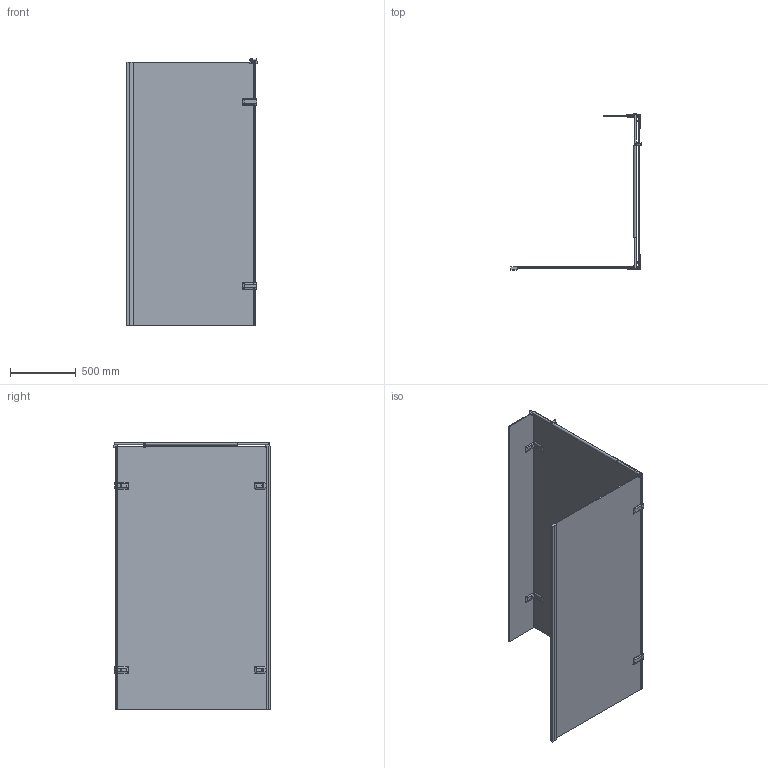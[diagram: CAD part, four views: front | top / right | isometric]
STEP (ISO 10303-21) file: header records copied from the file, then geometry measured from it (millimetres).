
FILE_DESCRIPTION(/* description */ (''),/* implementation_level */ '2;1');
FILE_NAME(/* name */ 'E:\Работа\Сергей\Душевые кабинки\! Работа\!!!!\50\TREND DOOR GK-883NGP\TREND DOOR GK-883NGP правая модель\TREND DOOR GK-883NGP ПРАВАЯ-3D.stp',/* time_stamp */ '2018-11-25T20:24:07+03:00',/* author */ ('PC'),/* organization */ (''),/* preprocessor_version */ 'ST-DEVELOPER v15.2',/* originating_system */ 'Autodesk Inventor 2014',/* authorisation */ '');
FILE_SCHEMA (('CONFIG_CONTROL_DESIGN'));
Length unit declared in the file: millimetre
Products named in the file (1): TREND DOOR GK-883NGP ПРАВАЯ-
3D
Bounding box: 990.14 x 1184.8 x 2028.5 mm (x, y, z)
Volume: 40794631.7 mm3; surface area: 9954548.8 mm2
Topology: 1 solids, 1 shells, 310 faces, 841 edges, 517 vertices
Faces by surface type: plane 131, cylinder 89, bspline 48, torus 29, sphere 13
Full cylindrical faces by diameter (mm): 12 x1, 15 x3, 20 x4
Entity records: 12504 total; most frequent: CARTESIAN_POINT 4932, ORIENTED_EDGE 1512, DIRECTION 1403, EDGE_CURVE 756, VERTEX_POINT 493, AXIS2_PLACEMENT_3D 483, LINE 437, VECTOR 437
